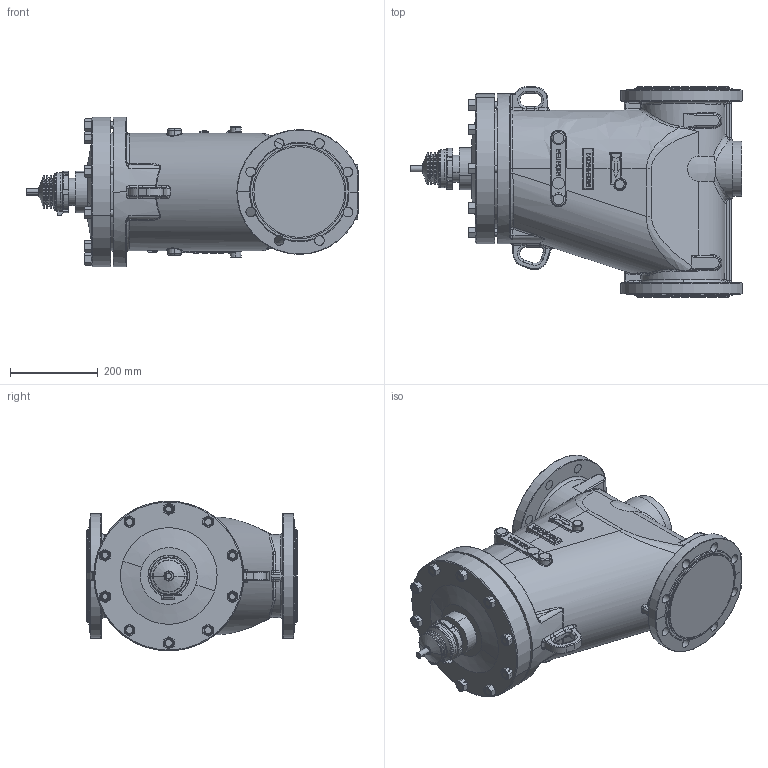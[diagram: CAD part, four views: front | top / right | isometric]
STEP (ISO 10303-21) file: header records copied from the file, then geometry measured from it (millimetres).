
FILE_DESCRIPTION((''),'2;1');
FILE_NAME('9560-00-5009_A_SW0001','2014-07-01T',('mclefen'),(''),'PRO/ENGINEER BY PARAMETRIC TECHNOLOGY CORPORATION, 2011040','PRO/ENGINEER BY PARAMETRIC TECHNOLOGY CORPORATION, 2011040','');
FILE_SCHEMA(('CONFIG_CONTROL_DESIGN'));
Products named in the file (1): 9560-00-5009_A_SW0001
Bounding box: 758 x 480 x 342 mm (x, y, z)
Volume: 49236519.8 mm3; surface area: 1244659.7 mm2
Topology: 1 solids, 1 shells, 2431 faces, 6533 edges, 4172 vertices
Faces by surface type: plane 1402, cylinder 379, bspline 282, cone 218, torus 88, extrusion 42, sphere 20
Entity records: 125124 total; most frequent: CARTESIAN_POINT 67589, ORIENTED_EDGE 13046, DIRECTION 10221, EDGE_CURVE 6523, VECTOR 4183, VERTEX_POINT 4172, LINE 4141, AXIS2_PLACEMENT_3D 3019
